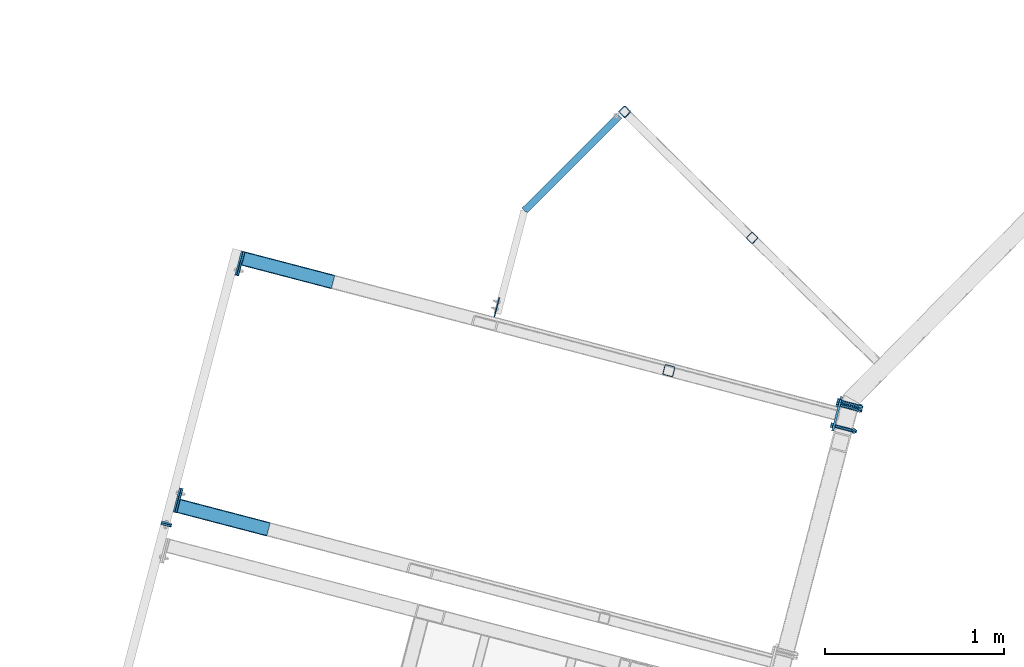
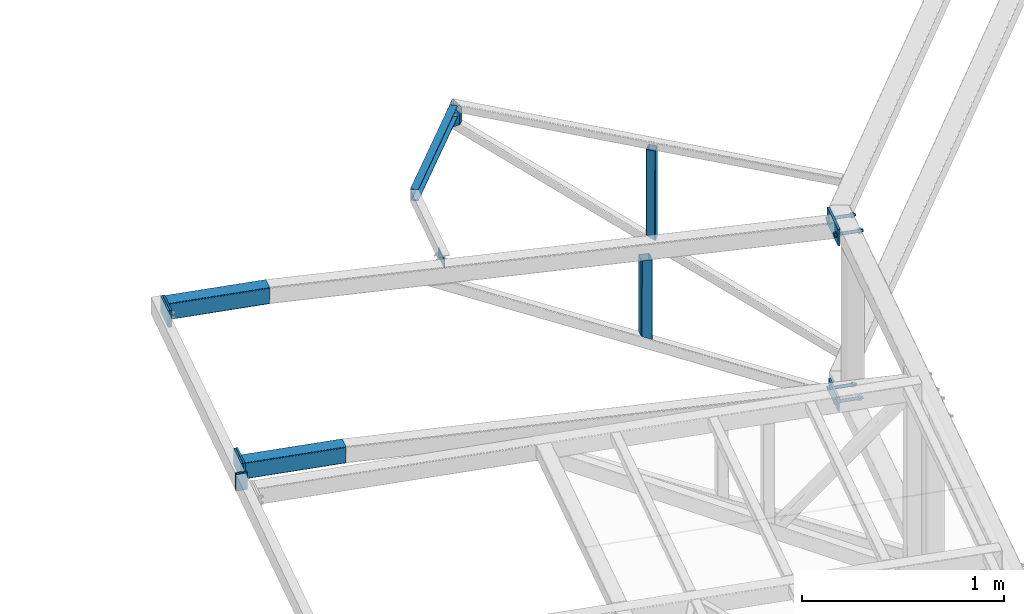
# One storey, part 86 of 169: 15 discrete accessories, 2 mechanical fasteners, 6 elements without a shape of their own.
"""IFC2X3 building model written with IfcOpenShell, lengths in millimetres."""

import ifcopenshell
import ifcopenshell.guid

model = None  # the IFC model being written
_history = None  # IfcOwnerHistory: only IFC2X3 demands one
_inside = {}  # id of a spatial element -> (the spatial element, [elements in it])
_under = {}  # id of a project, library or spatial element -> (it, [spatial elements below it])
_declared = {}  # id of a project -> (the project, [libraries it declares])
_typed = {}  # id of a type object -> (the type object, [elements of that type])
_made_of = {}  # id of a material, layer set ... -> (it, [elements and type objects made of it])


def new_model(schema):
    """Start an empty IFC model of exactly this schema.

    Asked for "IFC4X3", IfcOpenShell would pick the latest addendum, in which some entities
    have other attributes; the version numbers below select the first issue.
    IFC2X3 requires an IfcOwnerHistory on every rooted entity: one is made here for all.
    """
    global model, _history
    if schema == "IFC4X3":
        model = ifcopenshell.file(schema_version=(4, 3, 0, 0))
    else:
        model = ifcopenshell.file(schema=schema)
    _inside.clear()
    _under.clear()
    _declared.clear()
    _typed.clear()
    _made_of.clear()
    _history = None
    if model.schema == "IFC2X3":
        org = make("IfcOrganization", Name="unknown")
        user = make(
            "IfcPersonAndOrganization",
            ThePerson=make("IfcPerson", FamilyName="unknown"),
            TheOrganization=org,
        )
        app = make(
            "IfcApplication",
            ApplicationDeveloper=org,
            Version="unknown",
            ApplicationFullName="unknown",
            ApplicationIdentifier="unknown",
        )
        _history = make(
            "IfcOwnerHistory",
            OwningUser=user,
            OwningApplication=app,
            ChangeAction="ADDED",
            CreationDate=0,
        )
    return model


def make(cls, **values):
    """One entity of the class cls with the attributes given. An attribute that is None is left unset."""
    return model.create_entity(
        cls, **{name: value for name, value in values.items() if value is not None}
    )


def rooted(cls, **values):
    """An entity with a GlobalId (a new one), such as an element, a storey or a relation."""
    return make(cls, GlobalId=ifcopenshell.guid.new(), OwnerHistory=_history, **values)


def si_unit(unit_type, name, prefix=None):
    """IfcSIUnit, for example si_unit("LENGTHUNIT", "METRE", prefix="MILLI")."""
    return make("IfcSIUnit", UnitType=unit_type, Prefix=prefix, Name=name)


def assignment(units):
    """IfcUnitAssignment: the units of a project."""
    return None if units is None else make("IfcUnitAssignment", Units=units)


def point(xyz):
    """IfcCartesianPoint."""
    return None if xyz is None else make("IfcCartesianPoint", Coordinates=xyz)


def direction(xyz):
    """IfcDirection."""
    return None if xyz is None else make("IfcDirection", DirectionRatios=xyz)


def frame(location, z_axis=None, x_axis=None):
    """IfcAxis2Placement3D, a coordinate frame: its origin and axes. An axis left out is left unset."""
    return make(
        "IfcAxis2Placement3D",
        Location=point(location),
        Axis=direction(z_axis),
        RefDirection=direction(x_axis),
    )


def frame_2d(location, x_axis=None):
    """IfcAxis2Placement2D, a coordinate frame in the plane: its origin and x axis."""
    return make(
        "IfcAxis2Placement2D", Location=point(location), RefDirection=direction(x_axis)
    )


def origin_with_axes():
    """The frame at (0, 0, 0) with the z axis (0, 0, 1) and the x axis (1, 0, 0) written out."""
    return frame((0.0, 0.0, 0.0), z_axis=(0.0, 0.0, 1.0), x_axis=(1.0, 0.0, 0.0))


def origin_2d_with_axis():
    """The frame at (0, 0) in the plane with the x axis (1, 0) written out."""
    return frame_2d((0.0, 0.0), x_axis=(1.0, 0.0))


def place(relative_to, where):
    """IfcLocalPlacement: puts the frame where relative to a parent placement (None: the world)."""
    return make(
        "IfcLocalPlacement", PlacementRelTo=relative_to, RelativePlacement=where
    )


def context(
    kind, dimensions, precision=None, world=None, true_north=None, identifier=None
):
    """IfcGeometricRepresentationContext, for example the 3D "Model" context."""
    return make(
        "IfcGeometricRepresentationContext",
        ContextIdentifier=identifier,
        ContextType=kind,
        CoordinateSpaceDimension=dimensions,
        Precision=precision,
        WorldCoordinateSystem=world,
        TrueNorth=true_north,
    )


def subcontext(parent, identifier, kind, view, scale=None):
    """IfcGeometricRepresentationSubContext, for example "Body" below "Model"."""
    return make(
        "IfcGeometricRepresentationSubContext",
        ContextIdentifier=identifier,
        ContextType=kind,
        ParentContext=parent,
        TargetScale=scale,
        TargetView=view,
    )


def project(units=None, contexts=None):
    """IfcProject with its units and contexts."""
    return rooted(
        "IfcProject",
        Name="project",
        RepresentationContexts=contexts,
        UnitsInContext=assignment(units),
    )


def spatial(cls, under=None, at=None, **own):
    """A site, building, storey or space (cls), placed at a placement, below another one or the project."""
    s = rooted(cls, ObjectPlacement=at, **own)
    if under is not None:
        _under.setdefault(under.id(), (under, []))[1].append(s)
    return s


def polyline(points):
    """IfcPolyline through the points."""
    return make("IfcPolyline", Points=[point(p) for p in points])


def circle_curve(where, radius):
    """IfcCircle in the frame where."""
    return make("IfcCircle", Position=where, Radius=radius)


def parameter(value):
    """IfcParameterValue: where a trimmed curve begins or ends, as a parameter of its basis curve."""
    return model.create_entity("IfcParameterValue", value)


def trimmed(basis, trim1, trim2, sense, master):
    """IfcTrimmedCurve: the piece of a basis curve between two trims."""
    return make(
        "IfcTrimmedCurve",
        BasisCurve=basis,
        Trim1=trim1,
        Trim2=trim2,
        SenseAgreement=sense,
        MasterRepresentation=master,
    )


def segment(curve, same_sense, transition):
    """IfcCompositeCurveSegment."""
    return make(
        "IfcCompositeCurveSegment",
        Transition=transition,
        SameSense=same_sense,
        ParentCurve=curve,
    )


def composite_curve(segments, self_intersect=None):
    """IfcCompositeCurve: segments joined end to end."""
    return make("IfcCompositeCurve", Segments=segments, SelfIntersect=self_intersect)


def profile(cls, at=None, kind="AREA", **sizes):
    """A parametric profile (cls). Its sizes go by their IFC names, for example OverallWidth=200.0."""
    return make(cls, ProfileType=kind, Position=at, **sizes)


def hollow_rectangle(**sizes):
    """IfcRectangleHollowProfileDef."""
    return profile("IfcRectangleHollowProfileDef", **sizes)


def circle(**sizes):
    """IfcCircleProfileDef."""
    return profile("IfcCircleProfileDef", **sizes)


def u_section(**sizes):
    """IfcUShapeProfileDef."""
    return profile("IfcUShapeProfileDef", **sizes)


def outline(outer, holes=None, kind="AREA"):
    """IfcArbitraryClosedProfileDef: a profile drawn as a closed curve; with holes, ...WithVoids."""
    if holes is None:
        return make("IfcArbitraryClosedProfileDef", ProfileType=kind, OuterCurve=outer)
    return make(
        "IfcArbitraryProfileDefWithVoids",
        ProfileType=kind,
        OuterCurve=outer,
        InnerCurves=holes,
    )


def extrude(swept, where, along, depth):
    """IfcExtrudedAreaSolid: the profile swept, set in the frame where, extruded along a direction by depth."""
    return make(
        "IfcExtrudedAreaSolid",
        SweptArea=swept,
        Position=where,
        ExtrudedDirection=direction(along),
        Depth=depth,
    )


def clip(a, b, op="DIFFERENCE"):
    """IfcBooleanClippingResult: the solid a cut by the half space b."""
    return make(
        "IfcBooleanClippingResult", Operator=op, FirstOperand=a, SecondOperand=b
    )


def halfspace(plane, agree):
    """IfcHalfSpaceSolid: all space on one side of the plane z = 0 of the frame plane."""
    return make(
        "IfcHalfSpaceSolid",
        BaseSurface=make("IfcPlane", Position=plane),
        AgreementFlag=agree,
    )


def shape(context_of_items, identifier, shape_type, items):
    """IfcShapeRepresentation: the items that make up one representation, for example the "Body"."""
    return make(
        "IfcShapeRepresentation",
        ContextOfItems=context_of_items,
        RepresentationIdentifier=identifier,
        RepresentationType=shape_type,
        Items=items,
    )


def source(mapping_origin, context_of_items, identifier, shape_type, items):
    """IfcRepresentationMap: a shape defined once, which mapped items show again and again."""
    return make(
        "IfcRepresentationMap",
        MappingOrigin=mapping_origin,
        MappedRepresentation=shape(context_of_items, identifier, shape_type, items),
    )


def transform(
    local_origin,
    x_axis=None,
    y_axis=None,
    z_axis=None,
    scale=None,
    scale2=None,
    scale3=None,
    uniform=True,
):
    """IfcCartesianTransformationOperator3D, or its non-uniform kind. x_axis, y_axis, z_axis: its Axis1, 2, 3."""
    if uniform:
        return make(
            "IfcCartesianTransformationOperator3D",
            Axis1=direction(x_axis),
            Axis2=direction(y_axis),
            LocalOrigin=point(local_origin),
            Scale=scale,
            Axis3=direction(z_axis),
        )
    return make(
        "IfcCartesianTransformationOperator3DnonUniform",
        Axis1=direction(x_axis),
        Axis2=direction(y_axis),
        LocalOrigin=point(local_origin),
        Scale=scale,
        Axis3=direction(z_axis),
        Scale2=scale2,
        Scale3=scale3,
    )


def mapped(mapping_source, mapping_target):
    """IfcMappedItem: shows the shape of a source again, moved by a transform."""
    return make(
        "IfcMappedItem", MappingSource=mapping_source, MappingTarget=mapping_target
    )


def material(Name=None, Category=None):
    """IfcMaterial."""
    return make("IfcMaterial", Name=Name, Category=Category)


def made_of(thing, what):
    """Note that an element or type object is made of a material, layer set ...; save() writes the relation."""
    if what is not None:
        _made_of.setdefault(what.id(), (what, []))[1].append(thing)
    return thing


def type_object(cls, material=None, **own):
    """A type object (cls), such as IfcWallType, which elements share."""
    return made_of(rooted(cls, **own), material)


def element(
    cls,
    number,
    at=None,
    inside=None,
    cuts=None,
    type_object=None,
    material=None,
    context=None,
    identifier="Body",
    shape_type=None,
    held_by="IfcProductDefinitionShape",
    body=None,
    shapes=None,
    **own,
):
    """One element of the class cls, such as IfcWall. Its Tag is "e" and its number.

    at: its placement. inside: the storey or other place that contains it. cuts: it is an
    opening in that element (IfcRelVoidsElement). A single representation is given by context,
    identifier, shape_type and body (its items); several are given by shapes. held_by: the class
    of the entity that holds the representations. save() writes the other relations.
    """
    e = rooted(cls, Tag="e%d" % number, ObjectPlacement=at, **own)
    if body is not None:
        shapes = [shape(context, identifier, shape_type, body)]
    if shapes is not None:
        e.Representation = make(held_by, Representations=shapes)
    if inside is not None:
        _inside.setdefault(inside.id(), (inside, []))[1].append(e)
    if cuts is not None:
        rooted(
            "IfcRelVoidsElement", RelatingBuildingElement=cuts, RelatedOpeningElement=e
        )
    if type_object is not None:
        _typed.setdefault(type_object.id(), (type_object, []))[1].append(e)
    return made_of(e, material)


def aggregate(whole, parts):
    """IfcRelAggregates: a whole, such as a stair, and the parts it consists of."""
    return rooted("IfcRelAggregates", RelatingObject=whole, RelatedObjects=parts)


def save(model, path):
    """Write the relations noted so far, then the file.

    IfcRelAggregates (storeys below a building ...), IfcRelContainedInSpatialStructure (elements
    in a storey), IfcRelDefinesByType, IfcRelAssociatesMaterial and IfcRelDeclares: one each for
    every whole, place, type object, material and project.
    """
    for whole, parts in _under.values():
        aggregate(whole, parts)
    for where, things in _inside.values():
        rooted(
            "IfcRelContainedInSpatialStructure",
            RelatedElements=things,
            RelatingStructure=where,
        )
    for kind, things in _typed.values():
        rooted("IfcRelDefinesByType", RelatedObjects=things, RelatingType=kind)
    for what, things in _made_of.values():
        rooted("IfcRelAssociatesMaterial", RelatedObjects=things, RelatingMaterial=what)
    for by, libraries in _declared.values():
        rooted("IfcRelDeclares", RelatingContext=by, RelatedDefinitions=libraries)
    model.write(path)


model = new_model("IFC2X3")

# Units and contexts
model_context = context("Model", 3, precision=1e-05, world=origin_with_axes())
body_context = subcontext(model_context, "Body", "Model", "MODEL_VIEW")
ifc_project = project(units=[si_unit("LENGTHUNIT", "METRE", prefix="MILLI"), si_unit("AREAUNIT", "SQUARE_METRE"), si_unit("VOLUMEUNIT", "CUBIC_METRE"), si_unit("MASSUNIT", "GRAM", prefix="KILO"), si_unit("TIMEUNIT", "SECOND"), si_unit("PLANEANGLEUNIT", "RADIAN"), si_unit("SOLIDANGLEUNIT", "STERADIAN"), si_unit("THERMODYNAMICTEMPERATUREUNIT", "DEGREE_CELSIUS"), si_unit("LUMINOUSINTENSITYUNIT", "LUMEN")], contexts=[model_context])

# Site, building, storey
site_placement = place(None, origin_with_axes())
site = spatial("IfcSite", under=ifc_project, at=site_placement, Name="Undefined", CompositionType="ELEMENT")
building_placement = place(site_placement, origin_with_axes())
building = spatial("IfcBuilding", under=site, at=building_placement, Name="Undefined", CompositionType="ELEMENT")
storey_placement = place(building_placement, origin_with_axes())
storey = spatial("IfcBuildingStorey", under=building, at=storey_placement, Name="Undefined", CompositionType="ELEMENT", Elevation=0.0)

# Assembly, discrete accessory
assembly_1_placement = place(storey_placement, origin_with_axes())
assembly_1 = element("IfcElementAssembly", 1, at=assembly_1_placement, inside=storey, Name="Steel Assembly", AssemblyPlace="NOTDEFINED", PredefinedType="RIGID_FRAME")
ifc_material_1 = material(Name="STEEL/S235")
discrete_accessory_type_1 = type_object("IfcDiscreteAccessoryType", Name="BLACHA")
discrete_accessory_1_placement = place(assembly_1_placement, frame((-26308.0401188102, 11206.176550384, 14025.3772006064), z_axis=(-0.252628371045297, -0.967563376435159, 0.000136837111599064), x_axis=(8.00909999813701e-05, -0.000162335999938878, -0.999999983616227)))
discrete_accessory_1 = element("IfcDiscreteAccessory", 2, at=discrete_accessory_1_placement, type_object=discrete_accessory_type_1, material=ifc_material_1, Name="BLACHA", ObjectType="BL10*60", context=body_context, shape_type="SweptSolid", body=[
    extrude(outline(polyline([(100.000000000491, -29.9999999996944), (1.63709046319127e-10, -30.0000000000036), (-1.63709046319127e-10, 30.0000000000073), (100.000000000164, 30.0000000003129), (100.000000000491, -29.9999999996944)])), frame((-1.81898926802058e-12, -1.18000176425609e-16, -5.00000000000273), z_axis=(0.0, 0.0, 1.0), x_axis=(1.0, 0.0, 0.0)), (0.0, 0.0, 1.0), 10.0),
])
aggregate(assembly_1, [discrete_accessory_1])

assembly_2_placement = place(storey_placement, origin_with_axes())
assembly_2 = element("IfcElementAssembly", 3, at=assembly_2_placement, inside=storey, Name="Steel Assembly", AssemblyPlace="NOTDEFINED", PredefinedType="RIGID_FRAME")
discrete_accessory_2_placement = place(assembly_2_placement, frame((-26305.5138354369, 11215.8521754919, 14025.314003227), z_axis=(-0.252628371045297, -0.967563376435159, 0.000136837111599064), x_axis=(8.00909999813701e-05, -0.000162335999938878, -0.999999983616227)))
discrete_accessory_2 = element("IfcDiscreteAccessory", 4, at=discrete_accessory_2_placement, type_object=discrete_accessory_type_1, material=ifc_material_1, Name="BLACHA", ObjectType="BL10*60", context=body_context, shape_type="SweptSolid", body=[
    extrude(outline(polyline([(100.000000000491, -29.9999999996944), (1.63709046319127e-10, -30.0000000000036), (-1.63709046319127e-10, 30.0000000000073), (100.000000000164, 30.0000000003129), (100.000000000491, -29.9999999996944)])), frame((-1.81898926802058e-12, -1.18000176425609e-16, -5.00000000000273), z_axis=(0.0, 0.0, 1.0), x_axis=(1.0, 0.0, 0.0)), (0.0, 0.0, 1.0), 10.0),
])

# Assembly, discrete accessories
assembly_3_placement = place(storey_placement, origin_with_axes())
assembly_3 = element("IfcElementAssembly", 5, at=assembly_3_placement, inside=storey, Name="Steel Assembly", AssemblyPlace="NOTDEFINED", PredefinedType="RIGID_FRAME")
ifc_material_2 = material(Name="STEEL/S355")
discrete_accessory_3_placement = place(assembly_3_placement, frame((-24464.5877585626, 12419.8274229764, 13970.1557223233), z_axis=(0.96756338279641, -0.25262835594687, 0.000118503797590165), x_axis=(8.00909999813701e-05, -0.000162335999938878, -0.999999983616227)))
discrete_accessory_3 = element("IfcDiscreteAccessory", 6, at=discrete_accessory_3_placement, type_object=discrete_accessory_type_1, material=ifc_material_2, Name="BLACHA", ObjectType="BL110X6", context=body_context, shape_type="SweptSolid", body=[
    extrude(outline(polyline([(50.00000000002, -54.9999999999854), (2.00088834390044e-11, -54.9999999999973), (-2.00088834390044e-11, 54.9999999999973), (49.9999999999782, 55.0000000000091), (50.00000000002, -54.9999999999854)])), frame((4.06575814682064e-20, 9.09383216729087e-13, -3.0), z_axis=(0.0, 0.0, 1.0), x_axis=(1.0, 0.0, 0.0)), (0.0, 0.0, 1.0), 6.0),
])
discrete_accessory_4_placement = place(assembly_3_placement, frame((-22592.3356403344, 11729.4316709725, 13830.6043535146), z_axis=(-0.967563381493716, 0.252628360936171, -0.000118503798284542), x_axis=(0.252628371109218, 0.967563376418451, -0.000136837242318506)))
discrete_accessory_4 = element("IfcDiscreteAccessory", 7, at=discrete_accessory_4_placement, type_object=discrete_accessory_type_1, material=ifc_material_1, Name="BLACHA", ObjectType="BL12*100", context=body_context, shape_type="SweptSolid", body=[
    extrude(outline(polyline([(-2.8421709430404e-11, 50.0000000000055), (200.000000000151, 50.0000000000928), (200.000000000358, -49.9999999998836), (2.75122147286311e-11, -50.0000000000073), (-2.8421709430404e-11, 50.0000000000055)])), frame((-1.81898942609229e-12, -1.81898940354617e-12, -5.99999999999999), z_axis=(0.0, 0.0, 1.0), x_axis=(1.0, 0.0, 0.0)), (0.0, 0.0, 1.0), 12.0),
])
discrete_accessory_5_placement = place(assembly_3_placement, frame((-22569.6118587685, 11816.4717863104, 12860.6979801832), z_axis=(-0.967563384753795, 0.252628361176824, -8.7251889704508e-05), x_axis=(4.62349999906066e-05, -0.000168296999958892, -0.999999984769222)))
discrete_accessory_5 = element("IfcDiscreteAccessory", 8, at=discrete_accessory_5_placement, type_object=discrete_accessory_type_1, material=ifc_material_1, Name="BLACHA", ObjectType="BL12*180", context=body_context, shape_type="SweptSolid", body=[
    extrude(outline(polyline([(80.0000000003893, 89.9999999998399), (80.0000000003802, -89.9999999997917), (6.18456397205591e-11, -90.0), (-6.3664629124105e-11, 90.0000000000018), (80.0000000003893, 89.9999999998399)])), frame((-1.81898942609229e-12, -1.81898940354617e-12, -5.99999999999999), z_axis=(0.0, 0.0, 1.0), x_axis=(1.0, 0.0, 0.0)), (0.0, 0.0, 1.0), 12.0),
])

# Assembly, discrete accessory
assembly_4_placement = place(storey_placement, origin_with_axes())
assembly_4 = element("IfcElementAssembly", 9, at=assembly_4_placement, inside=storey, Name="Steel Assembly", AssemblyPlace="NOTDEFINED", PredefinedType="RIGID_FRAME")
discrete_accessory_6_placement = place(assembly_4_placement, frame((-26235.3055678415, 11342.2001849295, 13925.241401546), z_axis=(0.96756338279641, -0.25262835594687, 0.000118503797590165), x_axis=(-8.00909999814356e-05, 0.000162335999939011, 0.999999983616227)))
discrete_accessory_6 = element("IfcDiscreteAccessory", 10, at=discrete_accessory_6_placement, type_object=discrete_accessory_type_1, material=ifc_material_1, Name="BLACHA", ObjectType="BL10*140", context=body_context, shape_type="SweptSolid", body=[
    extrude(outline(polyline([(1.4915713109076e-10, 69.9999999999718), (100.000001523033, 69.9999999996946), (100.000001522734, -70.0000000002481), (-1.4915713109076e-10, -69.9999999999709), (1.4915713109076e-10, 69.9999999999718)])), frame((-1.81898926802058e-12, -1.18000176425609e-16, -5.00000000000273), z_axis=(0.0, 0.0, 1.0), x_axis=(1.0, 0.0, 0.0)), (0.0, 0.0, 1.0), 10.0),
])

# Discrete accessory
discrete_accessory_7_placement = place(assembly_2_placement, frame((-26245.9487700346, 11344.979106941, 13925.3022915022), z_axis=(0.96756338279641, -0.25262835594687, 0.000118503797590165), x_axis=(-8.00909999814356e-05, 0.000162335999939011, 0.999999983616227)))
discrete_accessory_7 = element("IfcDiscreteAccessory", 11, at=discrete_accessory_7_placement, type_object=discrete_accessory_type_1, material=ifc_material_1, Name="BLACHA", ObjectType="BL10*140", context=body_context, shape_type="SweptSolid", body=[
    extrude(outline(polyline([(1.4915713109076e-10, 69.9999999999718), (99.9360661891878, 70.0000000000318), (99.9360661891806, -69.9999999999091), (-1.4915713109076e-10, -69.9999999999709), (1.4915713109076e-10, 69.9999999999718)])), frame((-1.81898926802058e-12, -1.18000176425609e-16, -5.00000000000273), z_axis=(0.0, 0.0, 1.0), x_axis=(1.0, 0.0, 0.0)), (0.0, 0.0, 1.0), 10.0),
])

discrete_accessory_8_placement = place(assembly_3_placement, frame((-25890.4678415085, 12662.9241928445, 13925.0545902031), z_axis=(0.96756338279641, -0.25262835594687, 0.000118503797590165), x_axis=(-8.00909999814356e-05, 0.000162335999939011, 0.999999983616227)))
discrete_accessory_8 = element("IfcDiscreteAccessory", 12, at=discrete_accessory_8_placement, type_object=discrete_accessory_type_1, material=ifc_material_1, Name="BLACHA", ObjectType="BL10*140", context=body_context, shape_type="SweptSolid", body=[
    extrude(outline(polyline([(1.4915713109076e-10, 69.9999999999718), (100.000001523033, 69.9999999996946), (100.000001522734, -70.0000000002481), (-1.4915713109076e-10, -69.9999999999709), (1.4915713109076e-10, 69.9999999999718)])), frame((-1.81898926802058e-12, -1.18000176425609e-16, -5.00000000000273), z_axis=(0.0, 0.0, 1.0), x_axis=(1.0, 0.0, 0.0)), (0.0, 0.0, 1.0), 10.0),
])

discrete_accessory_9_placement = place(assembly_2_placement, frame((-25901.1110437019, 12665.7031148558, 13925.1154940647), z_axis=(0.96756338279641, -0.25262835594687, 0.000118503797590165), x_axis=(-8.00909999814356e-05, 0.000162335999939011, 0.999999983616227)))
discrete_accessory_9 = element("IfcDiscreteAccessory", 13, at=discrete_accessory_9_placement, type_object=discrete_accessory_type_1, material=ifc_material_1, Name="BLACHA", ObjectType="BL10*140", context=body_context, shape_type="SweptSolid", body=[
    extrude(outline(polyline([(1.4915713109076e-10, 69.9999999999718), (99.9360661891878, 70.0000000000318), (99.9360661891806, -69.9999999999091), (-1.4915713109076e-10, -69.9999999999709), (1.4915713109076e-10, 69.9999999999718)])), frame((-1.81898926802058e-12, -1.18000176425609e-16, -5.00000000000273), z_axis=(0.0, 0.0, 1.0), x_axis=(1.0, 0.0, 0.0)), (0.0, 0.0, 1.0), 10.0),
])

aggregate(assembly_2, [discrete_accessory_2, discrete_accessory_7, discrete_accessory_9])

# Assembly, discrete accessory
assembly_5_placement = place(storey_placement, origin_with_axes())
assembly_5 = element("IfcElementAssembly", 14, at=assembly_5_placement, inside=storey, Name="Steel Assembly", AssemblyPlace="NOTDEFINED", PredefinedType="RIGID_FRAME")
discrete_accessory_type_2 = type_object("IfcDiscreteAccessoryType", Name="BEAM")
discrete_accessory_10_placement = place(assembly_5_placement, frame((-23664.4665118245, 13601.5793554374, 13945.1588339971), z_axis=(0.000447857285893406, 0.000181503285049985, -0.999999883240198), x_axis=(-0.708071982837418, -0.706140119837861, -0.000445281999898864)))
discrete_accessory_10 = element("IfcDiscreteAccessory", 15, at=discrete_accessory_10_placement, type_object=discrete_accessory_type_2, material=ifc_material_1, Name="BEAM", ObjectType="C70*40*4", context=body_context, shape_type="Clipping", body=[
    clip(clip(extrude(u_section(Depth=70.0, FlangeWidth=40.0, WebThickness=4.0, FlangeThickness=4.0, FilletRadius=6.0, at=origin_2d_with_axis()), frame((912.985115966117, 7.30017108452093e-12, -4.94930223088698e-17), z_axis=(-1.0, -3.46944695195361e-18, -1.38777878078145e-17), x_axis=(1.73472347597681e-18, -1.0, 0.0)), (0.0, 0.0, 1.0), 750.34), halfspace(frame((907.52416909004, -20.0293780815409, -0.0168202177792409), z_axis=(0.964783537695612, -0.263045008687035, -0.000220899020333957), x_axis=(-5.89643605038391e-11, -0.000839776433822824, 0.999999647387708)), False)), halfspace(frame((162.646629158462, 3.6015990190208e-10, 35.0000000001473), z_axis=(1.0, 0.0, 0.0), x_axis=(0.0, 1.0, 0.0)), True)),
])
aggregate(assembly_5, [discrete_accessory_10])

# Assembly, discrete accessories
assembly_6_placement = place(storey_placement, origin_with_axes())
assembly_6 = element("IfcElementAssembly", 16, at=assembly_6_placement, inside=storey, Name="Steel Assembly", AssemblyPlace="NOTDEFINED", PredefinedType="RIGID_FRAME")
discrete_accessory_11_placement = place(assembly_6_placement, frame((-23040.5526880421, 12805.5712878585, 13878.9326699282), z_axis=(-0.711191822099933, 0.702997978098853, -0.000186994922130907), x_axis=(-0.000325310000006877, -0.000595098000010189, -0.999999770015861)))
discrete_accessory_11 = element("IfcDiscreteAccessory", 17, at=discrete_accessory_11_placement, type_object=discrete_accessory_type_2, material=ifc_material_1, Name="BEAM", ObjectType="SHS50*4", context=body_context, shape_type="Clipping", body=[
    clip(clip(extrude(hollow_rectangle(XDim=50.0, YDim=50.0, WallThickness=4.0, InnerFilletRadius=4.0, OuterFilletRadius=8.0, at=origin_2d_with_axis()), frame((544.925410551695, 1.81893032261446e-12, 1.47702328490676e-17), z_axis=(-1.0, -3.46944695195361e-18, -1.38777878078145e-17), x_axis=(1.73472347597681e-18, -1.0, 0.0)), (0.0, 0.0, 1.0), 559.53), halfspace(frame((71.6032463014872, 0.000537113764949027, 873.786967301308), z_axis=(-0.885407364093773, 2.14840959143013e-05, -0.464815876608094), x_axis=(-1.9022240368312e-05, -0.999999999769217, -9.98602767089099e-06)), True)), halfspace(frame((-50.000323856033, -3.89425622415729e-07, 1000.00077448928), z_axis=(0.998752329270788, -1.61183526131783e-08, 0.0499378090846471), x_axis=(0.0, 1.0, 0.0)), True)),
])
discrete_accessory_12_placement = place(assembly_6_placement, frame((-23751.70953428, 13508.6286210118, 13980.9950015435), z_axis=(-0.711191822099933, 0.702997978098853, -0.000186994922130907), x_axis=(-0.000325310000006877, -0.000595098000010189, -0.999999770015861)))
discrete_accessory_12 = element("IfcDiscreteAccessory", 18, at=discrete_accessory_12_placement, type_object=discrete_accessory_type_2, material=ifc_material_1, Name="BEAM", ObjectType="SHS50*4", context=body_context, shape_type="Clipping", body=[
    clip(clip(extrude(hollow_rectangle(XDim=50.0, YDim=50.0, WallThickness=4.0, InnerFilletRadius=4.0, OuterFilletRadius=8.0, at=origin_2d_with_axis()), frame((177.735221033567, 9.09475431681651e-13, -3.63795953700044e-12), z_axis=(-1.0, -3.46944695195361e-18, -1.38777878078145e-17), x_axis=(1.73472347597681e-18, -1.0, 0.0)), (0.0, 0.0, 1.0), 192.42), halfspace(frame((120.720179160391, 0.0023105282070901, -25.001155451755), z_axis=(-0.855828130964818, -2.39085282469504e-05, 0.5172602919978), x_axis=(4.59362126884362e-10, 0.999999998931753, 4.6222224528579e-05)), True)), halfspace(frame((0.93671128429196, -8.11782501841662e-06, 25.0000081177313), z_axis=(-0.689225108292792, 2.3570835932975e-07, -0.724547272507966), x_axis=(1.73472347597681e-18, -1.0, 0.0)), False)),
])
aggregate(assembly_6, [discrete_accessory_11, discrete_accessory_12])

# Discrete accessory
discrete_accessory_13_placement = place(assembly_4_placement, frame((-25511.9908051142, 11122.3458847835, 13975.3972171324), z_axis=(0.000160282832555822, -0.000183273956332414, -0.999999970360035), x_axis=(-0.967563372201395, 0.252628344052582, -0.000201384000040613)))
discrete_accessory_13 = element("IfcDiscreteAccessory", 19, at=discrete_accessory_13_placement, type_object=discrete_accessory_type_2, material=ifc_material_1, Name="BEAM", ObjectType="RHS100*80*4", context=body_context, shape_type="Clipping", body=[
    clip(clip(extrude(hollow_rectangle(XDim=80.0, YDim=100.0, WallThickness=4.0, InnerFilletRadius=4.0, OuterFilletRadius=8.0, at=origin_2d_with_axis()), frame((750.400255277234, 9.06438991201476e-13, -1.81898940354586e-12), z_axis=(-1.0, -3.46944695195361e-18, -1.38777878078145e-17), x_axis=(1.73472347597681e-18, -1.0, 0.0)), (0.0, 0.0, 1.0), 517.8), halfspace(frame((750.404399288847, 9.41872713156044e-09, 50.0000000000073), z_axis=(-0.999999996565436, 2.44309966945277e-09, 8.28802038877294e-05), x_axis=(1.73472347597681e-18, -1.0, 0.0)), True)), halfspace(frame((231.347743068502, -0.000326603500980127, -50.0002612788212), z_axis=(-0.999686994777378, 1.63836273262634e-07, 0.0250182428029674), x_axis=(4.12714143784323e-10, 0.999999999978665, -6.5321809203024e-06)), False)),
])

aggregate(assembly_4, [discrete_accessory_6, discrete_accessory_13])

discrete_accessory_14_placement = place(assembly_3_placement, frame((-25151.8330409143, 12501.0813108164, 13975.2022293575), z_axis=(0.000160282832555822, -0.000183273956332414, -0.999999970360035), x_axis=(-0.967563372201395, 0.252628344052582, -0.000201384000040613)))
discrete_accessory_14 = element("IfcDiscreteAccessory", 20, at=discrete_accessory_14_placement, type_object=discrete_accessory_type_2, material=ifc_material_1, Name="BEAM", ObjectType="RHS100*80*4", context=body_context, shape_type="Clipping", body=[
    clip(clip(extrude(hollow_rectangle(XDim=80.0, YDim=100.0, WallThickness=4.0, InnerFilletRadius=4.0, OuterFilletRadius=8.0, at=origin_2d_with_axis()), frame((750.568032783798, 9.29169753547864e-13, -1.81898940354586e-12), z_axis=(-1.0, -3.46944695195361e-18, -1.38777878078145e-17), x_axis=(1.73472347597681e-18, -1.0, 0.0)), (0.0, 0.0, 1.0), 517.8), halfspace(frame((750.572176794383, 9.42236511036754e-09, 50.0000000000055), z_axis=(-0.999999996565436, 2.44309966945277e-09, 8.28802038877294e-05), x_axis=(1.73472347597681e-18, -1.0, 0.0)), True)), halfspace(frame((231.514944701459, -0.000325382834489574, -50.0002603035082), z_axis=(-0.999686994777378, 1.63836273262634e-07, 0.0250182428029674), x_axis=(4.12714143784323e-10, 0.999999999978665, -6.5321809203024e-06)), False)),
])

discrete_accessory_15_placement = place(assembly_3_placement, frame((-23504.9262660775, 12065.8968698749, 13877.5759508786), z_axis=(-0.967563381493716, 0.252628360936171, -0.000118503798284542), x_axis=(8.00909999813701e-05, -0.000162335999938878, -0.999999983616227)))
discrete_accessory_15 = element("IfcDiscreteAccessory", 21, at=discrete_accessory_15_placement, type_object=discrete_accessory_type_2, material=ifc_material_1, Name="BEAM", ObjectType="SHS60*4", context=body_context, shape_type="Clipping", body=[
    clip(clip(extrude(hollow_rectangle(XDim=60.0, YDim=60.0, WallThickness=4.0, InnerFilletRadius=4.0, OuterFilletRadius=8.0, at=origin_2d_with_axis()), frame((535.597268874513, 1.81900392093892e-12, 0.0), z_axis=(-1.0, -3.46944695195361e-18, -1.38777878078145e-17), x_axis=(1.73472347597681e-18, -1.0, 0.0)), (0.0, 0.0, 1.0), 503.98), halfspace(frame((60.6603882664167, -0.000644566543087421, 871.462888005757), z_axis=(-0.885407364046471, -2.14855854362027e-05, -0.464815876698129), x_axis=(1.90237053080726e-05, -0.999999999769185, 9.98644171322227e-06)), True)), halfspace(frame((-1.00028805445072, 7.78002686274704e-07, 1001.24921972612), z_axis=(0.998752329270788, -1.61183526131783e-08, 0.0499378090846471), x_axis=(0.0, 1.0, 0.0)), True)),
])

# Mechanical fastener
ifc_material_3 = material(Name="Undefined")
discrete_accessory_type_3 = type_object("IfcDiscreteAccessoryType", Name="Bolt assembly")
shared_shape_1 = source(origin_with_axes(), body_context, "Body", "SweptSolid", [
    extrude(circle(Radius=9.5, at=origin_2d_with_axis()), frame((0.0, 3.89999843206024, 0.0), z_axis=(0.0, 1.0, 0.0), x_axis=(1.0, 0.0, 0.0)), (0.0, 0.0, 1.0), 100.1),
    extrude(outline(composite_curve([segment(polyline([(9.5, 10.0), (9.5, -10.0)]), True, "CONTINUOUS"), segment(trimmed(circle_curve(frame_2d((0.0, -10.0), x_axis=(1.0, 0.0)), 9.5), [parameter(0.0)], [parameter(3.14159265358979)], False, "PARAMETER"), True, "CONTINUOUS"), segment(polyline([(-9.5, -10.0), (-9.5, 10.0)]), True, "CONTINUOUS"), segment(trimmed(circle_curve(frame_2d((0.0, 10.0), x_axis=(-1.0, 0.0)), 9.5), [parameter(0.0)], [parameter(3.14159265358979)], False, "PARAMETER"), True, "DISCONTINUOUS")], self_intersect=False)), frame((0.0, -8.89999998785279, 0.0), z_axis=(0.0, 1.0, 0.0), x_axis=(1.0, 0.0, 0.0)), (0.0, 0.0, 1.0), 12.0),
    extrude(outline(polyline([(13.85640646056, 0.0), (6.92820323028, 12.0000000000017), (-6.92820323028, 12.0000000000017), (-13.85640646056, 0.0), (-6.92820323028, -12.0000000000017), (6.92820323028, -12.0000000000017), (13.85640646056, 0.0)])), frame((0.0, -21.9999999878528, 0.0), z_axis=(0.0, 1.0, 0.0), x_axis=(1.0, 0.0, 0.0)), (0.0, 0.0, 1.0), 10.0),
    extrude(circle(Radius=8.0, at=origin_2d_with_axis()), frame((0.0, -11.9999999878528, 0.0), z_axis=(0.0, 1.0, 0.0), x_axis=(1.0, 0.0, 0.0)), (0.0, 0.0, 1.0), 140.0),
    extrude(circle(Radius=15.0, at=origin_2d_with_axis()), frame((0.0, -11.9999999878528, 0.0), z_axis=(0.0, 1.0, 0.0), x_axis=(1.0, 0.0, 0.0)), (0.0, 0.0, 1.0), 3.0),
    extrude(circle(Radius=15.0, at=origin_2d_with_axis()), frame((0.0, 103.999998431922, 0.0), z_axis=(0.0, 1.0, 0.0), x_axis=(1.0, 0.0, 0.0)), (0.0, 0.0, 1.0), 3.0),
    extrude(outline(polyline([(13.85640646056, 0.0), (6.92820323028, 12.0000000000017), (-6.92820323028, 12.0000000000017), (-13.85640646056, 0.0), (-6.92820323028, -12.0000000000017), (6.92820323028, -12.0000000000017), (13.85640646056, 0.0)])), frame((0.0, 106.999998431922, 0.0), z_axis=(0.0, 1.0, 0.0), x_axis=(1.0, 0.0, 0.0)), (0.0, 0.0, 1.0), 13.0),
])
mechanical_fastener_1_placement = place(assembly_3_placement, frame((-22546.4861260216, 11893.1595595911, 13830.5814467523), z_axis=(-8.00909999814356e-05, 0.000162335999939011, 0.999999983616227), x_axis=(-0.252628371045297, -0.967563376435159, 0.000136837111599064)))
mechanical_fastener_1 = element("IfcMechanicalFastener", 22, at=mechanical_fastener_1_placement, type_object=discrete_accessory_type_3, material=ifc_material_3, Name="Bolt assembly", NominalDiameter=16.0, NominalLength=140.0, context=body_context, shape_type="MappedRepresentation", body=[
    mapped(shared_shape_1, transform((0.0, 0.0, 0.0))),
    mapped(shared_shape_1, transform((139.999999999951, -4.15525391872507e-11, -3.09228198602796e-11))),
])

shared_shape_2 = source(origin_with_axes(), body_context, "Body", "SweptSolid", [
    extrude(circle(Radius=9.5, at=origin_2d_with_axis()), frame((0.0, 3.89978668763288, 0.0), z_axis=(0.0, 1.0, 0.0), x_axis=(1.0, 0.0, 0.0)), (0.0, 0.0, 1.0), 100.1),
    extrude(outline(composite_curve([segment(polyline([(-10.0, 9.5), (10.0, 9.5)]), True, "CONTINUOUS"), segment(trimmed(circle_curve(frame_2d((10.0, 0.0), x_axis=(0.0, 1.0)), 9.5), [parameter(0.0)], [parameter(3.14159265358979)], False, "PARAMETER"), True, "CONTINUOUS"), segment(polyline([(10.0, -9.5), (-10.0, -9.5)]), True, "CONTINUOUS"), segment(trimmed(circle_curve(frame_2d((-10.0, 0.0), x_axis=(0.0, -1.0)), 9.5), [parameter(0.0)], [parameter(3.14159265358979)], False, "PARAMETER"), True, "DISCONTINUOUS")], self_intersect=False)), frame((0.0, -8.89999998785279, 0.0), z_axis=(0.0, 1.0, 0.0), x_axis=(1.0, 0.0, 0.0)), (0.0, 0.0, 1.0), 12.0),
    extrude(outline(polyline([(13.85640646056, 0.0), (6.92820323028, 12.0000000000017), (-6.92820323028, 12.0000000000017), (-13.85640646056, 0.0), (-6.92820323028, -12.0000000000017), (6.92820323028, -12.0000000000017), (13.85640646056, 0.0)])), frame((0.0, -21.9999999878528, 0.0), z_axis=(0.0, 1.0, 0.0), x_axis=(1.0, 0.0, 0.0)), (0.0, 0.0, 1.0), 10.0),
    extrude(circle(Radius=8.0, at=origin_2d_with_axis()), frame((0.0, -11.9999999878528, 0.0), z_axis=(0.0, 1.0, 0.0), x_axis=(1.0, 0.0, 0.0)), (0.0, 0.0, 1.0), 140.0),
    extrude(circle(Radius=15.0, at=origin_2d_with_axis()), frame((0.0, -11.9999999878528, 0.0), z_axis=(0.0, 1.0, 0.0), x_axis=(1.0, 0.0, 0.0)), (0.0, 0.0, 1.0), 3.0),
    extrude(circle(Radius=15.0, at=origin_2d_with_axis()), frame((0.0, 103.999786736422, 0.0), z_axis=(0.0, 1.0, 0.0), x_axis=(1.0, 0.0, 0.0)), (0.0, 0.0, 1.0), 3.0),
    extrude(outline(polyline([(13.85640646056, 0.0), (6.92820323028, 12.0000000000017), (-6.92820323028, 12.0000000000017), (-13.85640646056, 0.0), (-6.92820323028, -12.0000000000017), (6.92820323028, -12.0000000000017), (13.85640646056, 0.0)])), frame((0.0, 106.999786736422, 0.0), z_axis=(0.0, 1.0, 0.0), x_axis=(1.0, 0.0, 0.0)), (0.0, 0.0, 1.0), 13.0),
])
mechanical_fastener_2_placement = place(assembly_3_placement, frame((-22566.7073192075, 11815.7071693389, 12820.6982420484), z_axis=(0.25262837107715, 0.967563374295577, -0.000151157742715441), x_axis=(-4.62350000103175e-05, 0.000168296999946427, 0.999999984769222)))
mechanical_fastener_2 = element("IfcMechanicalFastener", 23, at=mechanical_fastener_2_placement, type_object=discrete_accessory_type_3, material=ifc_material_3, Name="Bolt assembly", NominalDiameter=16.0, NominalLength=140.0, context=body_context, shape_type="MappedRepresentation", body=[
    mapped(shared_shape_2, transform((1.18234311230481e-11, 9.20081788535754e-11, -60.0000000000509))),
    mapped(shared_shape_2, transform((-1.2732925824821e-11, -9.20223897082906e-11, 60.0000000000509))),
])

aggregate(assembly_3, [discrete_accessory_3, mechanical_fastener_1, discrete_accessory_4, mechanical_fastener_2, discrete_accessory_5, discrete_accessory_8, discrete_accessory_14, discrete_accessory_15])

save(model, "model.ifc")
